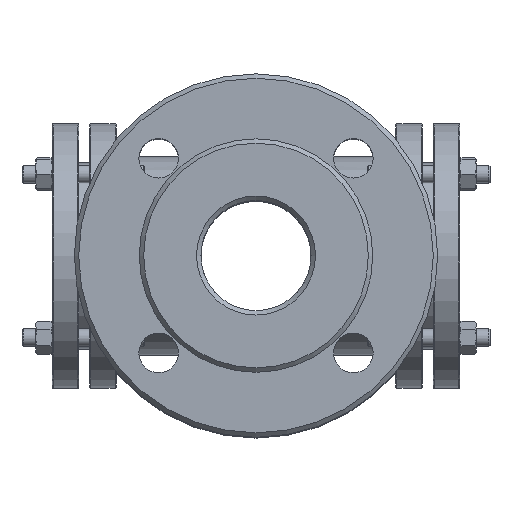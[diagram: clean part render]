
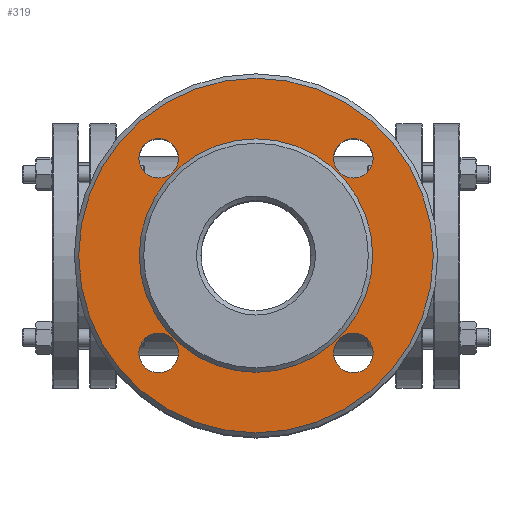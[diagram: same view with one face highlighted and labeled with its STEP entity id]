
A CAD part, top view. The second image highlights one B-rep face of the part: STEP entity #319.
In plain terms, the highlighted planar face has unit normal (0, 0, 1).
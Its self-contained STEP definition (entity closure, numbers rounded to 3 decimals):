
#319=ADVANCED_FACE('',(#2792,#2794,#2796,#2798,#2800,#2802),#2804,.T.);
#2792=FACE_BOUND('',#2793,.T.);
#2793=EDGE_LOOP('',(#8044));
#2794=FACE_BOUND('',#2795,.T.);
#2795=EDGE_LOOP('',(#8045));
#2796=FACE_BOUND('',#2797,.T.);
#2797=EDGE_LOOP('',(#8046));
#2798=FACE_BOUND('',#2799,.T.);
#2799=EDGE_LOOP('',(#8047));
#2800=FACE_BOUND('',#2801,.T.);
#2801=EDGE_LOOP('',(#8048));
#2802=FACE_BOUND('',#2803,.T.);
#2803=EDGE_LOOP('',(#8049));
#2804=PLANE('',#2805);
#2805=AXIS2_PLACEMENT_3D('',#2806,#2807,#2808);
#2806=CARTESIAN_POINT('',(0.,0.,113.));
#2807=DIRECTION('',(0.,0.,1.));
#2808=DIRECTION('',(1.,0.,0.));
#8044=ORIENTED_EDGE('',*,*,#10147,.F.);
#8045=ORIENTED_EDGE('',*,*,#10148,.T.);
#8046=ORIENTED_EDGE('',*,*,#10149,.T.);
#8047=ORIENTED_EDGE('',*,*,#10096,.F.);
#8048=ORIENTED_EDGE('',*,*,#10150,.F.);
#8049=ORIENTED_EDGE('',*,*,#10151,.F.);
#10096=EDGE_CURVE('',#11226,#11226,#11227,.T.);
#10147=EDGE_CURVE('',#11304,#11304,#11305,.T.);
#10148=EDGE_CURVE('',#11306,#11306,#11307,.T.);
#10149=EDGE_CURVE('',#11308,#11308,#11309,.T.);
#10150=EDGE_CURVE('',#11310,#11310,#11311,.T.);
#10151=EDGE_CURVE('',#11312,#11312,#11313,.T.);
#11226=VERTEX_POINT('',#14507);
#11227=CIRCLE('',#14508,53.);
#11304=VERTEX_POINT('',#15506);
#11305=CIRCLE('',#15507,80.5);
#11306=VERTEX_POINT('',#15511);
#11307=CIRCLE('',#15512,9.);
#11308=VERTEX_POINT('',#15516);
#11309=CIRCLE('',#15517,9.);
#11310=VERTEX_POINT('',#15521);
#11311=CIRCLE('',#15522,9.);
#11312=VERTEX_POINT('',#15526);
#11313=CIRCLE('',#15527,9.);
#14507=CARTESIAN_POINT('',(53.,0.,113.));
#14508=AXIS2_PLACEMENT_3D('',#14509,#14510,#14511);
#14509=CARTESIAN_POINT('',(0.,0.,113.));
#14510=DIRECTION('',(0.,0.,1.));
#14511=DIRECTION('',(1.,0.,0.));
#15506=CARTESIAN_POINT('',(80.5,0.,113.));
#15507=AXIS2_PLACEMENT_3D('',#15508,#15509,#15510);
#15508=CARTESIAN_POINT('',(0.,0.,113.));
#15509=DIRECTION('',(0.,0.,-1.));
#15510=DIRECTION('',(1.,0.,0.));
#15511=CARTESIAN_POINT('',(53.194,-44.194,113.));
#15512=AXIS2_PLACEMENT_3D('',#15513,#15514,#15515);
#15513=CARTESIAN_POINT('',(44.194,-44.194,113.));
#15514=DIRECTION('',(0.,0.,-1.));
#15515=DIRECTION('',(1.,0.,0.));
#15516=CARTESIAN_POINT('',(53.194,44.194,113.));
#15517=AXIS2_PLACEMENT_3D('',#15518,#15519,#15520);
#15518=CARTESIAN_POINT('',(44.194,44.194,113.));
#15519=DIRECTION('',(0.,0.,-1.));
#15520=DIRECTION('',(1.,0.,0.));
#15521=CARTESIAN_POINT('',(-53.194,-44.194,113.));
#15522=AXIS2_PLACEMENT_3D('',#15523,#15524,#15525);
#15523=CARTESIAN_POINT('',(-44.194,-44.194,113.));
#15524=DIRECTION('',(0.,0.,1.));
#15525=DIRECTION('',(-1.,0.,0.));
#15526=CARTESIAN_POINT('',(-53.194,44.194,113.));
#15527=AXIS2_PLACEMENT_3D('',#15528,#15529,#15530);
#15528=CARTESIAN_POINT('',(-44.194,44.194,113.));
#15529=DIRECTION('',(0.,0.,1.));
#15530=DIRECTION('',(-1.,0.,0.));
